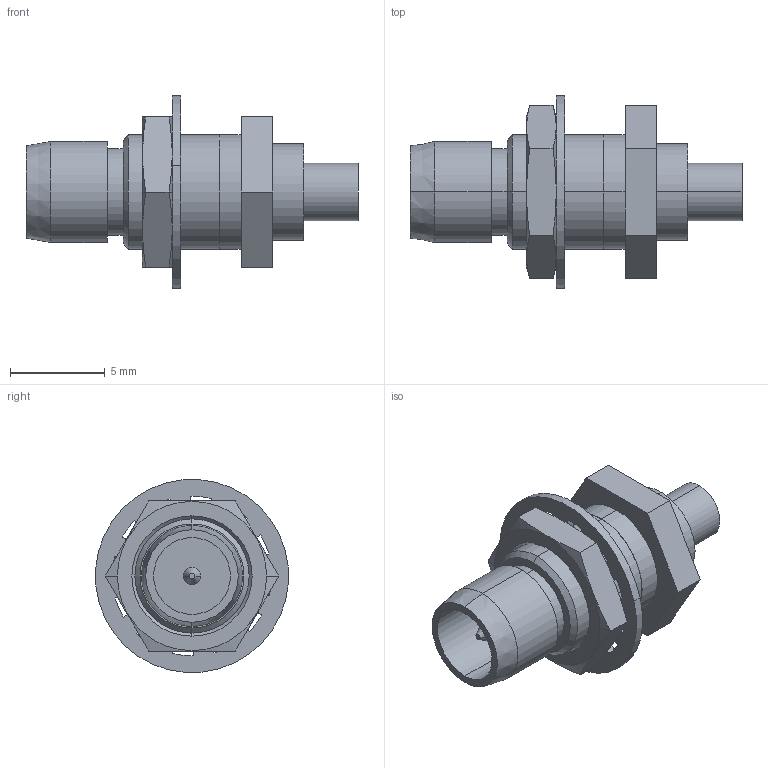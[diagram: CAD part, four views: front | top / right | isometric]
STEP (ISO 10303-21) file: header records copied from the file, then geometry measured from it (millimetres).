
FILE_DESCRIPTION (( 'STEP AP214' ), '1' );
FILE_NAME ('1708-0001.STEP', '2016-05-10T17:54:51', ( '' ), ( '' ), 'SwSTEP 2.0', 'SolidWorks 2015', '' );
FILE_SCHEMA (( 'AUTOMOTIVE_DESIGN' ));
Length unit declared in the file: inch
Products named in the file (1): 1708-0001
Bounding box: 17.53 x 10.19 x 10.19 mm (x, y, z)
Volume: 430.8 mm3; surface area: 648.9 mm2
Topology: 1 solids, 1 shells, 113 faces, 326 edges, 204 vertices
Faces by surface type: plane 51, cylinder 46, cone 16
Entity records: 5292 total; most frequent: CARTESIAN_POINT 704, DIRECTION 674, ORIENTED_EDGE 652, EDGE_CURVE 326, AXIS2_PLACEMENT_3D 246, VERTEX_POINT 204, LINE 182, VECTOR 182
